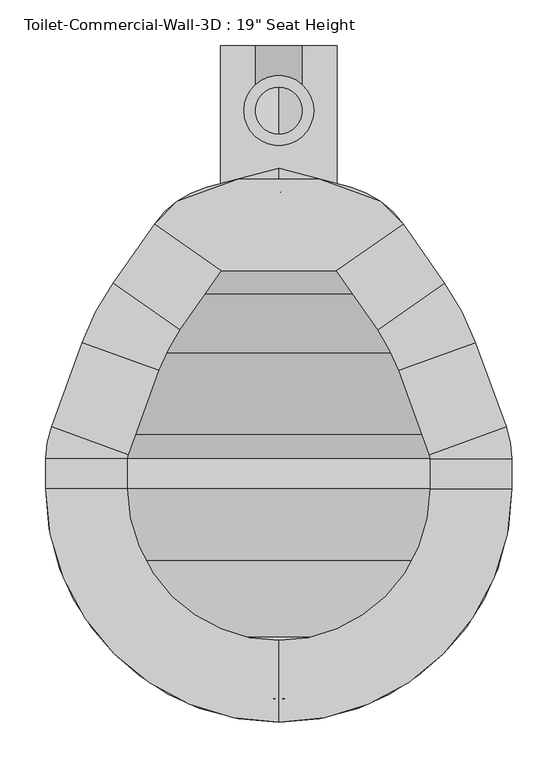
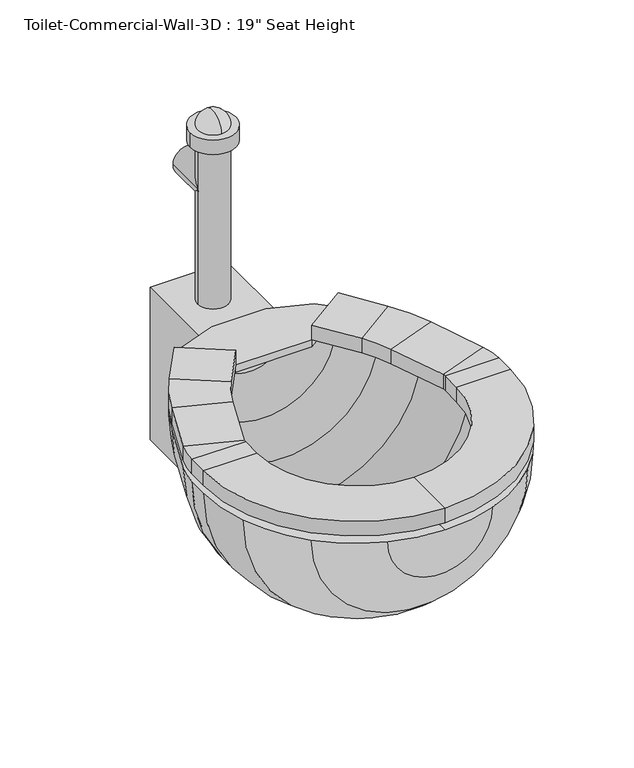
"""IFC4 building model written with IfcOpenShell, lengths in millimetres: flow terminal geometry."""

from ifc_helpers import new_model, si_unit, point, frame, frame_2d, origin, place, context, project, spatial, polyline, circle_curve, ellipse_curve, trimmed, segment, composite_curve, outline, extrude, source, transform, mapped, element, save
from ifc_brep_helpers import plane_surface, cylinder_surface, revolved_surface, advanced_brep


def flow_terminal_9b457be9(model_context):
    return source(origin(), model_context, "Body", "SolidModel", [
        extrude(outline(polyline([(467.7541169, -322.8222495), (342.0521907, -322.8222495), (269.229574, -271.8313043), (294.1800557, -246.8808226), (360.2423986, -222.8360961), (449.563909, -222.8360961), (515.6262519, -246.8808226), (540.5767337, -271.8313043), (467.7541169, -322.8222495)])), frame((0.0, 0.0, 444.5), z_axis=(0.0, 0.0, 1.0), x_axis=(1.0, 0.0, 0.0)), (0.0, 0.0, 1.0), 12.7),
        advanced_brep(
        [(467.7541169, -322.8222495, 457.2), (467.7541169, -322.8222495, 482.6), (540.5767337, -271.8313043, 482.6), (540.5767337, -271.8313043, 457.2), (585.6810159, -336.2468951, 457.2), (512.8583992, -387.2378403, 457.2), (585.6810159, -336.2468951, 482.6), (512.8583992, -387.2378403, 482.6), (619.360053, -400.9437234, 457.2), (535.821379, -431.3493141, 457.2), (619.360053, -400.9437234, 482.6), (535.821379, -431.3493141, 482.6), (652.7759241, -492.7530747, 457.2), (569.2372501, -523.1586654, 457.2), (652.7759241, -492.7530747, 482.6), (569.2372501, -523.1586654, 482.6), (658.9031538, -527.5023212, 457.2), (570.0031538, -527.5023212, 457.2), (658.9031538, -527.5023212, 482.6), (570.0031538, -527.5023212, 482.6), (658.9031538, -560.3875, 457.2), (570.0031538, -560.3875, 457.2), (658.9031538, -560.3875, 482.6), (570.0031538, -560.3875, 482.6), (404.9031538, -814.3875, 457.2), (404.9031538, -725.4875, 457.2), (404.9031538, -814.3875, 482.6), (404.9031538, -725.4875, 482.6), (150.9031538, -560.3875, 457.2), (239.8031538, -560.3875, 457.2), (150.9031538, -560.3875, 482.6), (239.8031538, -560.3875, 482.6), (150.9031538, -527.5023212, 457.2), (239.8031538, -527.5023212, 457.2), (150.9031538, -527.5023212, 482.6), (239.8031538, -527.5023212, 482.6), (157.0303835, -492.7530747, 457.2), (240.5690575, -523.1586654, 457.2), (157.0303835, -492.7530747, 482.6), (240.5690575, -523.1586654, 482.6), (190.4462546, -400.9437234, 457.2), (273.9849286, -431.3493141, 457.2), (190.4462546, -400.9437234, 482.6), (273.9849286, -431.3493141, 482.6), (224.1252917, -336.2468951, 457.2), (296.9479084, -387.2378403, 457.2), (224.1252917, -336.2468951, 482.6), (296.9479084, -387.2378403, 482.6), (342.0521907, -322.8222495, 457.2), (269.229574, -271.8313043, 457.2), (269.229574, -271.8313043, 482.6), (342.0521907, -322.8222495, 482.6)],
        [
            (0, 1),
            (1, 2),
            (2, 3),
            (3, 0),
            (3, 4),
            (4, 5),
            (5, 0),
            (2, 6),
            (6, 4),
            (1, 7),
            (7, 6),
            (5, 7),
            (8, 9),
            (9, 5, circle_curve(frame((356.8099347, -496.5041514, 457.2), z_axis=(0.0, 0.0, 1.0), x_axis=(0.81915204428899, 0.5735764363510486, 0.0)), 190.5)),
            (4, 8, circle_curve(frame((356.8099347, -496.5041514, 457.2), z_axis=(0.0, 0.0, -1.0), x_axis=(0.81915204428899, 0.5735764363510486, 0.0)), 279.4)),
            (10, 8),
            (6, 10, circle_curve(frame((356.8099347, -496.5041514, 482.6), z_axis=(0.0, 0.0, -1.0), x_axis=(0.81915204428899, 0.5735764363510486, 0.0)), 279.4)),
            (11, 10),
            (7, 11, circle_curve(frame((356.8099347, -496.5041514, 482.6), z_axis=(0.0, 0.0, -1.0), x_axis=(0.81915204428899, 0.5735764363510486, 0.0)), 190.5)),
            (9, 11),
            (8, 12),
            (12, 13),
            (13, 9),
            (10, 14),
            (14, 12),
            (11, 15),
            (15, 14),
            (13, 15),
            (16, 17),
            (17, 13, circle_curve(frame((557.3031538, -527.5023212, 457.2), z_axis=(0.0, 0.0, 1.0), x_axis=(0.9396926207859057, 0.3420201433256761, 0.0)), 12.7)),
            (12, 16, circle_curve(frame((557.3031538, -527.5023212, 457.2), z_axis=(0.0, 0.0, -1.0), x_axis=(0.9396926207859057, 0.3420201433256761, 0.0)), 101.6)),
            (18, 16),
            (14, 18, circle_curve(frame((557.3031538, -527.5023212, 482.6), z_axis=(0.0, 0.0, -1.0), x_axis=(0.9396926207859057, 0.3420201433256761, 0.0)), 101.6)),
            (19, 18),
            (15, 19, circle_curve(frame((557.3031538, -527.5023212, 482.6), z_axis=(0.0, 0.0, -1.0), x_axis=(0.9396926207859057, 0.3420201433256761, 0.0)), 12.7)),
            (17, 19),
            (16, 20),
            (20, 21),
            (21, 17),
            (18, 22),
            (22, 20),
            (19, 23),
            (23, 22),
            (21, 23),
            (24, 25),
            (25, 21, circle_curve(frame((404.9031538, -560.3875, 457.2), z_axis=(0.0, 0.0, 1.0), x_axis=(1.0, 0.0, 0.0)), 165.1)),
            (20, 24, circle_curve(frame((404.9031538, -560.3875, 457.2), z_axis=(0.0, 0.0, -1.0), x_axis=(1.0, 0.0, 0.0)), 254.0)),
            (26, 24),
            (22, 26, circle_curve(frame((404.9031538, -560.3875, 482.6), z_axis=(0.0, 0.0, -1.0), x_axis=(1.0, 0.0, 0.0)), 254.0)),
            (27, 26),
            (23, 27, circle_curve(frame((404.9031538, -560.3875, 482.6), z_axis=(0.0, 0.0, -1.0), x_axis=(1.0, 0.0, 0.0)), 165.1)),
            (25, 27),
            (28, 29),
            (29, 25, circle_curve(frame((404.9031538, -560.3875, 457.2), z_axis=(0.0, 0.0, 1.0), x_axis=(0.0, -1.0, 0.0)), 165.1)),
            (24, 28, circle_curve(frame((404.9031538, -560.3875, 457.2), z_axis=(0.0, 0.0, -1.0), x_axis=(0.0, -1.0, 0.0)), 254.0)),
            (30, 28),
            (26, 30, circle_curve(frame((404.9031538, -560.3875, 482.6), z_axis=(0.0, 0.0, -1.0), x_axis=(0.0, -1.0, 0.0)), 254.0)),
            (31, 30),
            (27, 31, circle_curve(frame((404.9031538, -560.3875, 482.6), z_axis=(0.0, 0.0, -1.0), x_axis=(0.0, -1.0, 0.0)), 165.1)),
            (29, 31),
            (28, 32),
            (32, 33),
            (33, 29),
            (30, 34),
            (34, 32),
            (31, 35),
            (35, 34),
            (33, 35),
            (36, 37),
            (37, 33, circle_curve(frame((252.5031538, -527.5023212, 457.2), z_axis=(0.0, 0.0, 1.0), x_axis=(-1.0, 0.0, 0.0)), 12.7)),
            (32, 36, circle_curve(frame((252.5031538, -527.5023212, 457.2), z_axis=(0.0, 0.0, -1.0), x_axis=(-1.0, 0.0, 0.0)), 101.6)),
            (38, 36),
            (34, 38, circle_curve(frame((252.5031538, -527.5023212, 482.6), z_axis=(0.0, 0.0, -1.0), x_axis=(-1.0, 0.0, 0.0)), 101.6)),
            (39, 38),
            (35, 39, circle_curve(frame((252.5031538, -527.5023212, 482.6), z_axis=(0.0, 0.0, -1.0), x_axis=(-1.0, 0.0, 0.0)), 12.7)),
            (37, 39),
            (36, 40),
            (40, 41),
            (41, 37),
            (38, 42),
            (42, 40),
            (39, 43),
            (43, 42),
            (41, 43),
            (44, 45),
            (45, 41, circle_curve(frame((452.9963729, -496.5041514, 457.2), z_axis=(0.0, 0.0, 1.0), x_axis=(-0.939692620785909, 0.3420201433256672, 0.0)), 190.5)),
            (40, 44, circle_curve(frame((452.9963729, -496.5041514, 457.2), z_axis=(0.0, 0.0, -1.0), x_axis=(-0.939692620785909, 0.3420201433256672, 0.0)), 279.4)),
            (46, 44),
            (42, 46, circle_curve(frame((452.9963729, -496.5041514, 482.6), z_axis=(0.0, 0.0, -1.0), x_axis=(-0.939692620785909, 0.3420201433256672, 0.0)), 279.4)),
            (47, 46),
            (43, 47, circle_curve(frame((452.9963729, -496.5041514, 482.6), z_axis=(0.0, 0.0, -1.0), x_axis=(-0.939692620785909, 0.3420201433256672, 0.0)), 190.5)),
            (45, 47),
            (48, 49),
            (49, 50),
            (50, 51),
            (51, 48),
            (44, 49),
            (48, 45),
            (46, 50),
            (47, 51),
        ],
        [
            plane_surface(frame((540.5767337, -271.8313043, 541.2203184), z_axis=(-0.5735764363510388, 0.8191520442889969, 0.0), x_axis=(0.8191520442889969, 0.5735764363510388, 0.0))),
            plane_surface(frame((467.7541169, -322.8222495, 457.2), z_axis=(0.0, 0.0, -1.0), x_axis=(0.5735764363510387, -0.8191520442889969, 0.0))),
            plane_surface(frame((540.5767337, -271.8313043, 457.2), z_axis=(0.8191520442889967, 0.5735764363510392, 0.0), x_axis=(0.5735764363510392, -0.8191520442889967, 0.0))),
            plane_surface(frame((540.5767337, -271.8313043, 482.6), z_axis=(0.0, 0.0, 1.0), x_axis=(0.5735764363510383, -0.8191520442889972, 0.0))),
            plane_surface(frame((467.7541169, -322.8222495, 482.6), z_axis=(-0.8191520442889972, -0.5735764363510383, 0.0), x_axis=(0.5735764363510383, -0.8191520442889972, 0.0))),
            plane_surface(frame((356.8099347, -496.5041514, 457.2), z_axis=(0.0, 0.0, -1.0), x_axis=(0.81915204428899, 0.5735764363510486, 0.0))),
            cylinder_surface(frame((356.8099347, -496.5041514, 444.5), z_axis=(0.0, 0.0, 1.0), x_axis=(0.81915204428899, 0.5735764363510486, 0.0)), 279.4),
            plane_surface(frame((356.8099347, -496.5041514, 482.6), z_axis=(0.0, 0.0, 1.0), x_axis=(0.81915204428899, 0.5735764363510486, 0.0))),
            revolved_surface(polyline([(512.8583991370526, -387.2378402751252, 482.6), (512.8583991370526, -387.2378402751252, 457.2)]), (356.8099347, -496.5041514, 444.5), (0.0, 0.0, 1.0)),
            plane_surface(frame((535.821379, -431.3493141, 457.2), z_axis=(0.0, 0.0, -1.0), x_axis=(0.3420201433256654, -0.9396926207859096, 0.0))),
            plane_surface(frame((619.360053, -400.9437234, 457.2), z_axis=(0.9396926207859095, 0.34202014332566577, 0.0), x_axis=(0.34202014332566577, -0.9396926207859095, 0.0))),
            plane_surface(frame((619.360053, -400.9437234, 482.6), z_axis=(0.0, 0.0, 1.0000000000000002), x_axis=(0.34202014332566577, -0.9396926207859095, 0.0))),
            plane_surface(frame((535.821379, -431.3493141, 482.6), z_axis=(-0.9396926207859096, -0.3420201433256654, 0.0), x_axis=(0.3420201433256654, -0.9396926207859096, 0.0))),
            plane_surface(frame((557.3031538, -527.5023212, 457.2), z_axis=(0.0, 0.0, -1.0000000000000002), x_axis=(0.9396926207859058, 0.34202014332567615, 0.0))),
            cylinder_surface(frame((557.3031538, -527.5023212, 444.5), z_axis=(0.0, 0.0, 1.0), x_axis=(0.9396926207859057, 0.3420201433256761, 0.0)), 101.6),
            plane_surface(frame((557.3031538, -527.5023212, 482.6), z_axis=(0.0, 0.0, 1.0000000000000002), x_axis=(0.9396926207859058, 0.34202014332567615, 0.0))),
            revolved_surface(polyline([(569.237250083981, -523.1586653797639, 482.6), (569.237250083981, -523.1586653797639, 457.2)]), (557.3031538, -527.5023212, 444.5), (0.0, 0.0, 1.0)),
            plane_surface(frame((570.0031538, -527.5023212, 457.2), z_axis=(0.0, 0.0, -1.0), x_axis=(0.0, -1.0, 0.0))),
            plane_surface(frame((658.9031538, -527.5023212, 457.2), z_axis=(1.0, 0.0, 0.0), x_axis=(0.0, -1.0, 0.0))),
            plane_surface(frame((658.9031538, -527.5023212, 482.6), z_axis=(0.0, 0.0, 1.0), x_axis=(0.0, -1.0, 0.0))),
            plane_surface(frame((570.0031538, -527.5023212, 482.6), z_axis=(-1.0, 0.0, 0.0), x_axis=(0.0, -1.0, 0.0))),
            plane_surface(frame((404.9031538, -560.3875, 457.2), z_axis=(0.0, 0.0, -1.0), x_axis=(1.0, 0.0, 0.0))),
            cylinder_surface(frame((404.9031538, -560.3875, 444.5), z_axis=(0.0, 0.0, 1.0), x_axis=(1.0, 0.0, 0.0)), 254.0),
            plane_surface(frame((404.9031538, -560.3875, 482.6), z_axis=(0.0, 0.0, 1.0), x_axis=(1.0, 0.0, 0.0))),
            revolved_surface(polyline([(570.0031538, -560.3875, 482.6), (570.0031538, -560.3875, 457.2)]), (404.9031538, -560.3875, 444.5), (0.0, 0.0, 1.0)),
            plane_surface(frame((404.9031538, -560.3875, 457.2), z_axis=(0.0, 0.0, -1.0), x_axis=(0.0, -1.0, 0.0))),
            cylinder_surface(frame((404.9031538, -560.3875, 444.5), z_axis=(0.0, 0.0, 1.0), x_axis=(0.0, -1.0, 0.0)), 254.0),
            plane_surface(frame((404.9031538, -560.3875, 482.6), z_axis=(0.0, 0.0, 1.0), x_axis=(0.0, -1.0, 0.0))),
            revolved_surface(polyline([(404.9031538, -725.4875000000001, 482.6), (404.9031538, -725.4875000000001, 457.2)]), (404.9031538, -560.3875, 444.5), (0.0, 0.0, 1.0)),
            plane_surface(frame((239.8031538, -560.3875, 457.2), z_axis=(0.0, 0.0, -1.0), x_axis=(0.0, 1.0, 0.0))),
            plane_surface(frame((150.9031538, -560.3875, 457.2), z_axis=(-1.0, 0.0, 0.0), x_axis=(0.0, 1.0, 0.0))),
            plane_surface(frame((150.9031538, -560.3875, 482.6), z_axis=(0.0, 0.0, 1.0), x_axis=(0.0, 1.0, 0.0))),
            plane_surface(frame((239.8031538, -560.3875, 482.6), z_axis=(1.0, 0.0, 0.0), x_axis=(0.0, 1.0, 0.0))),
            plane_surface(frame((252.5031538, -527.5023212, 457.2), z_axis=(0.0, 0.0, -1.0), x_axis=(-1.0, 0.0, 0.0))),
            cylinder_surface(frame((252.5031538, -527.5023212, 444.5), z_axis=(0.0, 0.0, 1.0), x_axis=(-1.0, 0.0, 0.0)), 101.6),
            plane_surface(frame((252.5031538, -527.5023212, 482.6), z_axis=(0.0, 0.0, 1.0), x_axis=(-1.0, 0.0, 0.0))),
            revolved_surface(polyline([(239.80315380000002, -527.5023212, 482.6), (239.80315380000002, -527.5023212, 457.2)]), (252.5031538, -527.5023212, 444.5), (0.0, 0.0, 1.0)),
            plane_surface(frame((240.5690575, -523.1586654, 457.2), z_axis=(0.0, 0.0, -1.0), x_axis=(0.34202014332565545, 0.9396926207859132, 0.0))),
            plane_surface(frame((157.0303835, -492.7530747, 457.2), z_axis=(-0.9396926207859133, 0.3420201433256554, 0.0), x_axis=(0.3420201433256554, 0.9396926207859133, 0.0))),
            plane_surface(frame((157.0303835, -492.7530747, 482.6), z_axis=(0.0, 0.0, 1.0), x_axis=(0.342020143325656, 0.9396926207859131, 0.0))),
            plane_surface(frame((240.5690575, -523.1586654, 482.6), z_axis=(0.9396926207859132, -0.34202014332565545, 0.0), x_axis=(0.34202014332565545, 0.9396926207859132, 0.0))),
            plane_surface(frame((452.9963729, -496.5041514, 457.2), z_axis=(0.0, 0.0, -1.0), x_axis=(-0.939692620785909, 0.3420201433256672, 0.0))),
            cylinder_surface(frame((452.9963729, -496.5041514, 444.5), z_axis=(0.0, 0.0, 1.0), x_axis=(-0.939692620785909, 0.3420201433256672, 0.0)), 279.4),
            plane_surface(frame((452.9963729, -496.5041514, 482.6), z_axis=(0.0, 0.0, 1.0), x_axis=(-0.939692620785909, 0.3420201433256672, 0.0))),
            revolved_surface(polyline([(273.98492864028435, -431.3493140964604, 482.6), (273.98492864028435, -431.3493140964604, 457.2)]), (452.9963729, -496.5041514, 444.5), (0.0, 0.0, 1.0)),
            plane_surface(frame((269.229574, -271.8313043, 347.7796816), z_axis=(0.5735764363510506, 0.8191520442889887, 0.0), x_axis=(0.8191520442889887, -0.5735764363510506, 0.0))),
            plane_surface(frame((296.9479084, -387.2378403, 457.2), z_axis=(0.0, 0.0, -1.0000000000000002), x_axis=(0.5735764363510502, 0.819152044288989, 0.0))),
            plane_surface(frame((224.1252917, -336.2468951, 457.2), z_axis=(-0.8191520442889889, 0.5735764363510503, 0.0), x_axis=(0.5735764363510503, 0.8191520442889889, 0.0))),
            plane_surface(frame((224.1252917, -336.2468951, 482.6), z_axis=(0.0, 0.0, 1.0), x_axis=(0.5735764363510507, 0.8191520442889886, 0.0))),
            plane_surface(frame((296.9479084, -387.2378403, 482.6), z_axis=(0.8191520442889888, -0.5735764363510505, 0.0), x_axis=(0.5735764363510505, 0.8191520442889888, 0.0))),
        ],
        [
            (0, [[1, 2, 3, 4]]),
            (1, [[5, 6, 7, -4]]),
            (2, [[8, 9, -5, -3]]),
            (3, [[10, 11, -8, -2]]),
            (4, [[-7, 12, -10, -1]]),
            (5, [[13, 14, -6, 15]]),
            (6, [[16, -15, -9, 17]]),
            (7, [[18, -17, -11, 19]]),
            (8, [[20, -19, -12, -14]]),
            (9, [[21, 22, 23, -13]]),
            (10, [[24, 25, -21, -16]]),
            (11, [[26, 27, -24, -18]]),
            (12, [[-23, 28, -26, -20]]),
            (13, [[29, 30, -22, 31]]),
            (14, [[32, -31, -25, 33]]),
            (15, [[34, -33, -27, 35]]),
            (16, [[36, -35, -28, -30]]),
            (17, [[37, 38, 39, -29]]),
            (18, [[40, 41, -37, -32]]),
            (19, [[42, 43, -40, -34]]),
            (20, [[-39, 44, -42, -36]]),
            (21, [[45, 46, -38, 47]]),
            (22, [[48, -47, -41, 49]]),
            (23, [[50, -49, -43, 51]]),
            (24, [[52, -51, -44, -46]]),
            (25, [[53, 54, -45, 55]]),
            (26, [[56, -55, -48, 57]]),
            (27, [[58, -57, -50, 59]]),
            (28, [[60, -59, -52, -54]]),
            (29, [[61, 62, 63, -53]]),
            (30, [[64, 65, -61, -56]]),
            (31, [[66, 67, -64, -58]]),
            (32, [[-63, 68, -66, -60]]),
            (33, [[69, 70, -62, 71]]),
            (34, [[72, -71, -65, 73]]),
            (35, [[74, -73, -67, 75]]),
            (36, [[76, -75, -68, -70]]),
            (37, [[77, 78, 79, -69]]),
            (38, [[80, 81, -77, -72]]),
            (39, [[82, 83, -80, -74]]),
            (40, [[-79, 84, -82, -76]]),
            (41, [[85, 86, -78, 87]]),
            (42, [[88, -87, -81, 89]]),
            (43, [[90, -89, -83, 91]]),
            (44, [[92, -91, -84, -86]]),
            (45, [[93, 94, 95, 96]]),
            (46, [[97, -93, 98, -85]]),
            (47, [[99, -94, -97, -88]]),
            (48, [[100, -95, -99, -90]]),
            (49, [[-98, -96, -100, -92]]),
        ],
    ),
        advanced_brep(
        [(491.7762702, -799.0694257, 444.5), (584.5082762, -739.9926224, 444.5), (643.5850795, -647.2606164, 444.5), (658.9031538, -560.3875, 444.5), (658.9031538, -527.5023212, 444.5), (652.7759241, -492.7530747, 444.5), (619.360053, -400.9437234, 444.5), (585.6810159, -336.2468951, 444.5), (540.5767337, -271.8313043, 444.5), (483.6469009, -231.9686063, 444.5), (404.9031538, -210.8692829, 444.5), (404.9031538, -237.1652978, 444.5), (468.1430637, -254.1103806, 444.5), (525.0728964, -293.9730786, 444.5), (562.9565296, -348.0765139, 444.5), (596.6355667, -412.7733422, 444.5), (628.9077315, -501.4403863, 444.5), (633.5031538, -527.5023212, 444.5), (633.5031538, -560.3875, 444.5), (619.7168869, -638.5733048, 444.5), (566.547764, -722.0321102, 444.5), (483.0889586, -775.2012331, 444.5), (404.9031538, -788.9875, 444.5), (404.9031538, -814.3875, 444.5), (318.0300374, -799.0694257, 444.5), (326.7173491, -775.2012331, 444.5), (243.2585436, -722.0321102, 444.5), (190.0894207, -638.5733048, 444.5), (176.3031538, -560.3875, 444.5), (176.3031538, -527.5023212, 444.5), (180.8985761, -501.4403863, 444.5), (213.1707409, -412.7733422, 444.5), (246.849778, -348.0765139, 444.5), (284.7334112, -293.9730786, 444.5), (341.663244, -254.1103806, 444.5), (326.1594067, -231.9686063, 444.5), (269.229574, -271.8313043, 444.5), (224.1252917, -336.2468951, 444.5), (190.4462546, -400.9437234, 444.5), (157.0303835, -492.7530747, 444.5), (150.9031538, -527.5023212, 444.5), (150.9031538, -560.3875, 444.5), (166.2212281, -647.2606164, 444.5), (225.2980314, -739.9926224, 444.5)],
        [
            (0, 1, circle_curve(frame((404.9031538, -560.3875, 444.5), z_axis=(0.0, 0.0, 1.0), x_axis=(1.0, 0.0, 0.0)), 254.0)),
            (1, 2, circle_curve(frame((404.9031538, -560.3875, 444.5), z_axis=(0.0, 0.0, 1.0), x_axis=(1.0, 0.0, 0.0)), 254.0)),
            (2, 3, circle_curve(frame((404.9031538, -560.3875, 444.5), z_axis=(0.0, 0.0, 1.0), x_axis=(1.0, 0.0, 0.0)), 254.0)),
            (3, 4),
            (4, 5, circle_curve(frame((557.3031538, -527.5023212, 444.5), z_axis=(0.0, 0.0, 1.0), x_axis=(1.0, 0.0, 0.0)), 101.6)),
            (5, 6),
            (6, 7, circle_curve(frame((356.8099347, -496.5041514, 444.5), z_axis=(0.0, 0.0, 1.0), x_axis=(1.0, 0.0, 0.0)), 279.4)),
            (7, 8),
            (8, 9, circle_curve(frame((457.350886, -330.1066703, 444.5), z_axis=(0.0, 0.0, 1.0), x_axis=(1.0, 0.0, 0.0)), 101.6)),
            (9, 10),
            (10, 11),
            (11, 12),
            (12, 13, circle_curve(frame((441.8470487, -352.2484446, 444.5), z_axis=(0.0, 0.0, -1.0), x_axis=(1.0, 0.0, 0.0)), 101.6)),
            (13, 14),
            (14, 15, circle_curve(frame((334.0854485, -508.3337703, 444.5), z_axis=(0.0, 0.0, -1.0), x_axis=(1.0, 0.0, 0.0)), 279.4)),
            (15, 16),
            (16, 17, circle_curve(frame((557.3031538, -527.5023212, 444.5), z_axis=(0.0, 0.0, -1.0), x_axis=(1.0, 0.0, 0.0)), 76.2)),
            (17, 18),
            (18, 19, circle_curve(frame((404.9031538, -560.3875, 444.5), z_axis=(0.0, 0.0, -1.0), x_axis=(1.0, 0.0, 0.0)), 228.6)),
            (19, 20, circle_curve(frame((404.9031538, -560.3875, 444.5), z_axis=(0.0, 0.0, -1.0), x_axis=(1.0, 0.0, 0.0)), 228.6)),
            (20, 21, circle_curve(frame((404.9031538, -560.3875, 444.5), z_axis=(0.0, 0.0, -1.0), x_axis=(1.0, 0.0, 0.0)), 228.6)),
            (21, 22, circle_curve(frame((404.9031538, -560.3875, 444.5), z_axis=(0.0, 0.0, -1.0), x_axis=(1.0, 0.0, 0.0)), 228.6)),
            (22, 23),
            (23, 0, circle_curve(frame((404.9031538, -560.3875, 444.5), z_axis=(0.0, 0.0, 1.0), x_axis=(1.0, 0.0, 0.0)), 254.0)),
            (24, 23, circle_curve(frame((404.9031538, -560.3875, 444.5), z_axis=(0.0, 0.0, 1.0), x_axis=(-1.0, 0.0, 0.0)), 254.0)),
            (22, 25, circle_curve(frame((404.9031538, -560.3875, 444.5), z_axis=(0.0, 0.0, -1.0), x_axis=(-1.0, 0.0, 0.0)), 228.6)),
            (25, 26, circle_curve(frame((404.9031538, -560.3875, 444.5), z_axis=(0.0, 0.0, -1.0), x_axis=(-1.0, 0.0, 0.0)), 228.6)),
            (26, 27, circle_curve(frame((404.9031538, -560.3875, 444.5), z_axis=(0.0, 0.0, -1.0), x_axis=(-1.0, 0.0, 0.0)), 228.6)),
            (27, 28, circle_curve(frame((404.9031538, -560.3875, 444.5), z_axis=(0.0, 0.0, -1.0), x_axis=(-1.0, 0.0, 0.0)), 228.6)),
            (28, 29),
            (29, 30, circle_curve(frame((252.5031538, -527.5023212, 444.5), z_axis=(0.0, 0.0, -1.0), x_axis=(-1.0, 0.0, 0.0)), 76.2)),
            (30, 31),
            (31, 32, circle_curve(frame((475.7208592, -508.3337703, 444.5), z_axis=(0.0, 0.0, -1.0), x_axis=(-1.0, 0.0, 0.0)), 279.4)),
            (32, 33),
            (33, 34, circle_curve(frame((367.9592589, -352.2484446, 444.5), z_axis=(0.0, 0.0, -1.0), x_axis=(-1.0, 0.0, 0.0)), 101.6)),
            (34, 11),
            (10, 35),
            (35, 36, circle_curve(frame((352.4554217, -330.1066703, 444.5), z_axis=(0.0, 0.0, 1.0), x_axis=(-1.0, 0.0, 0.0)), 101.6)),
            (36, 37),
            (37, 38, circle_curve(frame((452.9963729, -496.5041514, 444.5), z_axis=(0.0, 0.0, 1.0), x_axis=(-1.0, 0.0, 0.0)), 279.4)),
            (38, 39),
            (39, 40, circle_curve(frame((252.5031538, -527.5023212, 444.5), z_axis=(0.0, 0.0, 1.0), x_axis=(-1.0, 0.0, 0.0)), 101.6)),
            (40, 41),
            (41, 42, circle_curve(frame((404.9031538, -560.3875, 444.5), z_axis=(0.0, 0.0, 1.0), x_axis=(-1.0, 0.0, 0.0)), 254.0)),
            (42, 43, circle_curve(frame((404.9031538, -560.3875, 444.5), z_axis=(0.0, 0.0, 1.0), x_axis=(-1.0, 0.0, 0.0)), 254.0)),
            (43, 24, circle_curve(frame((404.9031538, -560.3875, 444.5), z_axis=(0.0, 0.0, 1.0), x_axis=(-1.0, 0.0, 0.0)), 254.0)),
            (24, 0, circle_curve(frame((404.9031538, -799.0694257, 444.5), z_axis=(0.0, -1.0, 0.0), x_axis=(1.0, 0.0, 0.0)), 86.8731164)),
            (21, 25, circle_curve(frame((404.9031538, -775.2012331, 444.5), z_axis=(0.0, 1.0, 0.0), x_axis=(1.0, 0.0, 0.0)), 78.1858048)),
            (20, 26, circle_curve(frame((404.9031538, -722.0321102, 444.5), z_axis=(0.0, 1.0, 0.0), x_axis=(1.0, 0.0, 0.0)), 161.6446102)),
            (19, 27, circle_curve(frame((404.9031538, -638.5733048, 444.5), z_axis=(0.0, 1.0, 0.0), x_axis=(1.0, 0.0, 0.0)), 214.8137331)),
            (18, 28, circle_curve(frame((404.9031538, -560.3875, 444.5), z_axis=(0.0, 1.0, 0.0), x_axis=(1.0, 0.0, 0.0)), 228.6)),
            (17, 29, circle_curve(frame((404.9031538, -527.5023212, 444.5), z_axis=(0.0, 1.0, 0.0), x_axis=(1.0, 0.0, 0.0)), 228.6)),
            (16, 30, circle_curve(frame((404.9031538, -501.4403863, 444.5), z_axis=(0.0, 1.0, 0.0), x_axis=(1.0, 0.0, 0.0)), 224.0045777)),
            (15, 31, circle_curve(frame((404.9031538, -412.7733422, 444.5), z_axis=(0.0, 1.0, 0.0), x_axis=(1.0, 0.0, 0.0)), 191.7324129)),
            (14, 32, circle_curve(frame((404.9031538, -348.0765139, 444.5), z_axis=(0.0, 1.0, 0.0), x_axis=(1.0, 0.0, 0.0)), 158.0533758)),
            (13, 33, circle_curve(frame((404.9031538, -293.9730786, 444.5), z_axis=(0.0, 1.0, 0.0), x_axis=(1.0, 0.0, 0.0)), 120.1697426)),
            (12, 34, circle_curve(frame((404.9031538, -254.1103806, 444.5), z_axis=(0.0, 1.0, 0.0), x_axis=(1.0, 0.0, 0.0)), 63.2399099)),
            (9, 35, circle_curve(frame((404.9031538, -231.9686063, 444.5), z_axis=(0.0, 1.0, 0.0), x_axis=(1.0, 0.0, 0.0)), 78.7437471)),
            (8, 36, circle_curve(frame((404.9031538, -271.8313043, 444.5), z_axis=(0.0, 1.0, 0.0), x_axis=(1.0, 0.0, 0.0)), 135.6735798)),
            (7, 37, circle_curve(frame((404.9031538, -336.2468951, 444.5), z_axis=(0.0, 1.0, 0.0), x_axis=(1.0, 0.0, 0.0)), 180.7778621)),
            (6, 38, circle_curve(frame((404.9031538, -400.9437234, 444.5), z_axis=(0.0, 1.0, 0.0), x_axis=(1.0, 0.0, 0.0)), 214.4568992)),
            (5, 39, circle_curve(frame((404.9031538, -492.7530747, 444.5), z_axis=(0.0, 1.0, 0.0), x_axis=(1.0, 0.0, 0.0)), 247.8727703)),
            (4, 40, circle_curve(frame((404.9031538, -527.5023212, 444.5), z_axis=(0.0, 1.0, 0.0), x_axis=(1.0, 0.0, 0.0)), 254.0)),
            (3, 41, circle_curve(frame((404.9031538, -560.3875, 444.5), z_axis=(0.0, 1.0, 0.0), x_axis=(1.0, 0.0, 0.0)), 254.0)),
            (2, 42, circle_curve(frame((404.9031538, -647.2606164, 444.5), z_axis=(0.0, 1.0, 0.0), x_axis=(1.0, 0.0, 0.0)), 238.6819257)),
            (1, 43, circle_curve(frame((404.9031538, -739.9926224, 444.5), z_axis=(0.0, 1.0, 0.0), x_axis=(1.0, 0.0, 0.0)), 179.6051224)),
        ],
        [
            plane_surface(frame((404.9031538, -919.5977448, 444.5), z_axis=(0.0, 0.0, 1.0), x_axis=(1.0, 0.0, 0.0))),
            plane_surface(frame((404.9031538, -919.5977448, 444.5), z_axis=(0.0, 0.0, 1.0), x_axis=(-1.0, 0.0, 0.0))),
            revolved_surface(trimmed(ellipse_curve(frame((404.9031538, -560.3875, 444.5), z_axis=(0.0, 0.0, -1.0), x_axis=(1.0, 0.0, 0.0)), 254.0, 254.0), [point((491.7762702, -799.0694257, 444.5))], [point((404.9031538, -814.3875, 444.5))], True, "CARTESIAN"), (404.9031538, -919.5977448, 444.5), (0.0, -1.0, 0.0)),
            revolved_surface(trimmed(ellipse_curve(frame((404.9031538, -560.3875, 444.5), z_axis=(0.0, 0.0, 1.0), x_axis=(1.0, 0.0, 0.0)), 228.6, 228.6), [point((404.9031538, -788.9875, 444.5))], [point((483.0889586, -775.2012331, 444.5))], True, "CARTESIAN"), (404.9031538, -919.5977448, 444.5), (0.0, -1.0, 0.0)),
            revolved_surface(trimmed(ellipse_curve(frame((404.9031538, -560.3875, 444.5), z_axis=(0.0, 0.0, 1.0), x_axis=(1.0, 0.0, 0.0)), 228.6, 228.6), [point((483.0889586, -775.2012331, 444.5))], [point((566.547764, -722.0321102, 444.5))], True, "CARTESIAN"), (404.9031538, -919.5977448, 444.5), (0.0, -1.0, 0.0)),
            revolved_surface(trimmed(ellipse_curve(frame((404.9031538, -560.3875, 444.5), z_axis=(0.0, 0.0, 1.0), x_axis=(1.0, 0.0, 0.0)), 228.6, 228.6), [point((566.547764, -722.0321102, 444.5))], [point((619.7168869, -638.5733048, 444.5))], True, "CARTESIAN"), (404.9031538, -919.5977448, 444.5), (0.0, -1.0, 0.0)),
            revolved_surface(trimmed(ellipse_curve(frame((404.9031538, -560.3875, 444.5), z_axis=(0.0, 0.0, 1.0), x_axis=(1.0, 0.0, 0.0)), 228.6, 228.6), [point((619.7168869, -638.5733048, 444.5))], [point((633.5031538, -560.3875, 444.5))], True, "CARTESIAN"), (404.9031538, -919.5977448, 444.5), (0.0, -1.0, 0.0)),
            revolved_surface(polyline([(633.5031538, -560.3875, 444.5), (633.5031538, -527.5023212, 444.5)]), (404.9031538, -919.5977448, 444.5), (0.0, -1.0, 0.0)),
            revolved_surface(trimmed(ellipse_curve(frame((557.3031538, -527.5023212, 444.5), z_axis=(0.0, 0.0, 1.0), x_axis=(1.0, 0.0, 0.0)), 76.2, 76.2), [point((633.5031538, -527.5023212, 444.5))], [point((628.9077315, -501.4403863, 444.5))], True, "CARTESIAN"), (404.9031538, -919.5977448, 444.5), (0.0, -1.0, 0.0)),
            revolved_surface(polyline([(628.9077315, -501.4403863, 444.5), (596.6355667, -412.7733422, 444.5)]), (404.9031538, -919.5977448, 444.5), (0.0, -1.0, 0.0)),
            revolved_surface(trimmed(ellipse_curve(frame((334.0854485, -508.3337703, 444.5), z_axis=(0.0, 0.0, 1.0), x_axis=(1.0, 0.0, 0.0)), 279.4, 279.4), [point((596.6355667, -412.7733422, 444.5))], [point((562.9565296, -348.0765139, 444.5))], True, "CARTESIAN"), (404.9031538, -919.5977448, 444.5), (0.0, -1.0, 0.0)),
            revolved_surface(polyline([(562.9565296, -348.0765139, 444.5), (525.0728964, -293.9730786, 444.5)]), (404.9031538, -919.5977448, 444.5), (0.0, -1.0, 0.0)),
            revolved_surface(trimmed(ellipse_curve(frame((441.8470487, -352.2484446, 444.5), z_axis=(0.0, 0.0, 1.0), x_axis=(1.0, 0.0, 0.0)), 101.6, 101.6), [point((525.0728964, -293.9730786, 444.5))], [point((468.1430637, -254.1103806, 444.5))], True, "CARTESIAN"), (404.9031538, -919.5977448, 444.5), (0.0, -1.0, 0.0)),
            revolved_surface(polyline([(468.1430637, -254.1103806, 444.5), (404.9031538, -237.1652978, 444.5)]), (404.9031538, -919.5977448, 444.5), (0.0, -1.0, 0.0)),
            revolved_surface(polyline([(404.9031538, -210.8692829, 444.5), (483.6469009, -231.9686063, 444.5)]), (404.9031538, -919.5977448, 444.5), (0.0, -1.0, 0.0)),
            revolved_surface(trimmed(ellipse_curve(frame((457.350886, -330.1066703, 444.5), z_axis=(0.0, 0.0, -1.0), x_axis=(1.0, 0.0, 0.0)), 101.6, 101.6), [point((483.6469009, -231.9686063, 444.5))], [point((540.5767337, -271.8313043, 444.5))], True, "CARTESIAN"), (404.9031538, -919.5977448, 444.5), (0.0, -1.0, 0.0)),
            revolved_surface(polyline([(540.5767337, -271.8313043, 444.5), (585.6810159, -336.2468951, 444.5)]), (404.9031538, -919.5977448, 444.5), (0.0, -1.0, 0.0)),
            revolved_surface(trimmed(ellipse_curve(frame((356.8099347, -496.5041514, 444.5), z_axis=(0.0, 0.0, -1.0), x_axis=(1.0, 0.0, 0.0)), 279.4, 279.4), [point((585.6810159, -336.2468951, 444.5))], [point((619.360053, -400.9437234, 444.5))], True, "CARTESIAN"), (404.9031538, -919.5977448, 444.5), (0.0, -1.0, 0.0)),
            revolved_surface(polyline([(619.360053, -400.9437234, 444.5), (652.7759241, -492.7530747, 444.5)]), (404.9031538, -919.5977448, 444.5), (0.0, -1.0, 0.0)),
            revolved_surface(trimmed(ellipse_curve(frame((557.3031538, -527.5023212, 444.5), z_axis=(0.0, 0.0, -1.0), x_axis=(1.0, 0.0, 0.0)), 101.6, 101.6), [point((652.7759241, -492.7530747, 444.5))], [point((658.9031538, -527.5023212, 444.5))], True, "CARTESIAN"), (404.9031538, -919.5977448, 444.5), (0.0, -1.0, 0.0)),
            cylinder_surface(frame((404.9031538, -919.5977448, 444.5), z_axis=(0.0, -1.0, 0.0), x_axis=(1.0, 0.0, 0.0)), 254.0),
            revolved_surface(trimmed(ellipse_curve(frame((404.9031538, -560.3875, 444.5), z_axis=(0.0, 0.0, -1.0), x_axis=(1.0, 0.0, 0.0)), 254.0, 254.0), [point((658.9031538, -560.3875, 444.5))], [point((643.5850795, -647.2606164, 444.5))], True, "CARTESIAN"), (404.9031538, -919.5977448, 444.5), (0.0, -1.0, 0.0)),
            revolved_surface(trimmed(ellipse_curve(frame((404.9031538, -560.3875, 444.5), z_axis=(0.0, 0.0, -1.0), x_axis=(1.0, 0.0, 0.0)), 254.0, 254.0), [point((643.5850795, -647.2606164, 444.5))], [point((584.5082762, -739.9926224, 444.5))], True, "CARTESIAN"), (404.9031538, -919.5977448, 444.5), (0.0, -1.0, 0.0)),
            revolved_surface(trimmed(ellipse_curve(frame((404.9031538, -560.3875, 444.5), z_axis=(0.0, 0.0, -1.0), x_axis=(1.0, 0.0, 0.0)), 254.0, 254.0), [point((584.5082762, -739.9926224, 444.5))], [point((491.7762702, -799.0694257, 444.5))], True, "CARTESIAN"), (404.9031538, -919.5977448, 444.5), (0.0, -1.0, 0.0)),
        ],
        [
            (0, [[1, 2, 3, 4, 5, 6, 7, 8, 9, 10, 11, 12, 13, 14, 15, 16, 17, 18, 19, 20, 21, 22, 23, 24]]),
            (1, [[25, -23, 26, 27, 28, 29, 30, 31, 32, 33, 34, 35, 36, -11, 37, 38, 39, 40, 41, 42, 43, 44, 45, 46]]),
            (2, [[-25, 47, -24]]),
            (3, [[-26, -22, 48]]),
            (4, [[-27, -48, -21, 49]]),
            (5, [[-28, -49, -20, 50]]),
            (6, [[-29, -50, -19, 51]]),
            (7, [[-30, -51, -18, 52]]),
            (8, [[-31, -52, -17, 53]]),
            (9, [[-32, -53, -16, 54]]),
            (10, [[-33, -54, -15, 55]]),
            (11, [[-34, -55, -14, 56]]),
            (12, [[-35, -56, -13, 57]]),
            (13, [[-36, -57, -12]]),
            (14, [[-37, -10, 58]]),
            (15, [[-38, -58, -9, 59]]),
            (16, [[-39, -59, -8, 60]]),
            (17, [[-40, -60, -7, 61]]),
            (18, [[-41, -61, -6, 62]]),
            (19, [[-42, -62, -5, 63]]),
            (20, [[-43, -63, -4, 64]]),
            (21, [[-44, -64, -3, 65]]),
            (22, [[-45, -65, -2, 66]]),
            (23, [[-46, -66, -1, -47]]),
        ],
    ),
        advanced_brep(
        [(404.9031538, -122.7051912, 749.3), (404.9031538, -148.3227737, 774.9175826), (404.9031538, -173.9403563, 749.3), (404.9031538, -148.3227737, 749.3)],
        [
            (0, 1, circle_curve(frame((404.9031538, -148.3227737, 749.3), z_axis=(1.0, 0.0, 0.0), x_axis=(0.0, -1.0, 0.0)), 25.6175826)),
            (1, 2, circle_curve(frame((404.9031538, -148.3227737, 749.3), z_axis=(1.0, 0.0, 0.0), x_axis=(0.0, 1.0, 0.0)), 25.6175826)),
            (2, 0, circle_curve(frame((404.9031538, -148.3227737, 749.3), z_axis=(0.0, 0.0, 1.0), x_axis=(0.0, -1.0, 0.0)), 25.6175826)),
            (0, 2, circle_curve(frame((404.9031538, -148.3227737, 749.3), z_axis=(0.0, 0.0, 1.0), x_axis=(0.0, -1.0, 0.0)), 25.6175826)),
            (3, 0),
            (2, 3),
        ],
        [
            revolved_surface(trimmed(ellipse_curve(frame((404.9031538, -148.3227737, 749.3), z_axis=(1.0, 0.0, 0.0), x_axis=(0.0, 1.0, 0.0)), 25.6175826, 25.6175826), [point((404.9031538, -148.3227737, 774.9175826))], [point((404.9031538, -173.9403563, 749.3))], True, "CARTESIAN"), (404.9031538, -148.3227737, 813.9277273), (0.0, 0.0, -1.0)),
            plane_surface(frame((404.9031538, -148.3227737, 749.3), z_axis=(0.0, 0.0, -1.0), x_axis=(0.0, -1.0, 0.0))),
        ],
        [
            (0, [[1, 2, 3]]),
            (0, [[-2, -1, 4]]),
            (1, [[5, -3, 6]]),
            (1, [[-6, -4, -5]]),
        ],
    ),
        extrude(outline(composite_curve([segment(trimmed(circle_curve(frame_2d((404.9031538, -148.3227737)), 38.1), [point((366.8031538, -148.3227737))], [point((443.0031538, -148.3227737))], False, "CARTESIAN"), True, "CONTINUOUS"), segment(trimmed(circle_curve(frame_2d((404.9031538, -148.3227737)), 38.1), [point((443.0031538, -148.3227737))], [point((366.8031538, -148.3227737))], False, "CARTESIAN"), True, "CONTINUOUS")], self_intersect=False)), frame((0.0, 0.0, 723.9), z_axis=(0.0, 0.0, 1.0), x_axis=(1.0, 0.0, 0.0)), (0.0, 0.0, 1.0), 25.4),
        extrude(outline(composite_curve([segment(trimmed(circle_curve(frame_2d((645.8113641, 404.9031538)), 25.4), [point((645.8113641, 379.5031538))], [point((645.8113641, 430.3031538))], False, "CARTESIAN"), True, "CONTINUOUS"), segment(trimmed(circle_curve(frame_2d((645.8113641, 404.9031538)), 25.4), [point((645.8113641, 430.3031538))], [point((645.8113641, 379.5031538))], False, "CARTESIAN"), True, "CONTINUOUS")], self_intersect=False)), frame((0.0, -148.43125, 0.0), z_axis=(0.0, 1.0, 0.0), x_axis=(0.0, 0.0, 1.0)), (0.0, 0.0, 1.0), 70.64375),
        extrude(outline(composite_curve([segment(trimmed(circle_curve(frame_2d((404.9031538, -148.3227737)), 25.4), [point((379.5031538, -148.3227737))], [point((430.3031538, -148.3227737))], False, "CARTESIAN"), True, "CONTINUOUS"), segment(trimmed(circle_curve(frame_2d((404.9031538, -148.3227737)), 25.4), [point((430.3031538, -148.3227737))], [point((379.5031538, -148.3227737))], False, "CARTESIAN"), True, "CONTINUOUS")], self_intersect=False)), frame((0.0, 0.0, 444.5), z_axis=(0.0, 0.0, 1.0), x_axis=(1.0, 0.0, 0.0)), (0.0, 0.0, 1.0), 279.4),
        extrude(outline(polyline([(-230.5912941, 444.5), (-77.7875, 444.5), (-77.7875, 177.8), (-297.8329017, 177.8), (-378.3301282, 235.6328588), (-274.2978185, 308.4770663), (-230.5912941, 370.896452), (-230.5912941, 444.5)])), frame((341.4031538, 0.0, 0.0), z_axis=(1.0, 0.0, 0.0), x_axis=(0.0, 1.0, 0.0)), (0.0, 0.0, 1.0), 127.0),
    ])


if __name__ == "__main__":
    model = new_model("IFC4")
    model_context = context("Model", 3, world=origin())
    ifc_project = project(units=[si_unit("LENGTHUNIT", "METRE", prefix="MILLI")], contexts=[model_context])
    site = spatial("IfcSite", under=ifc_project)
    building = spatial("IfcBuilding", under=site)
    placement = place(None, origin())
    flow_terminal_shape = flow_terminal_9b457be9(model_context)
    element("IfcFlowTerminal", 1, ObjectType="Toilet-Commercial-Wall-3D : 19\" Seat Height", at=placement, inside=building, context=model_context, shape_type="MappedRepresentation", body=[
        mapped(flow_terminal_shape, transform((0.0, 0.0, 0.0), x_axis=(1.0, 0.0, 0.0), y_axis=(0.0, 1.0, 0.0), z_axis=(0.0, 0.0, 1.0))),
    ])
    save(model, "model.ifc")
